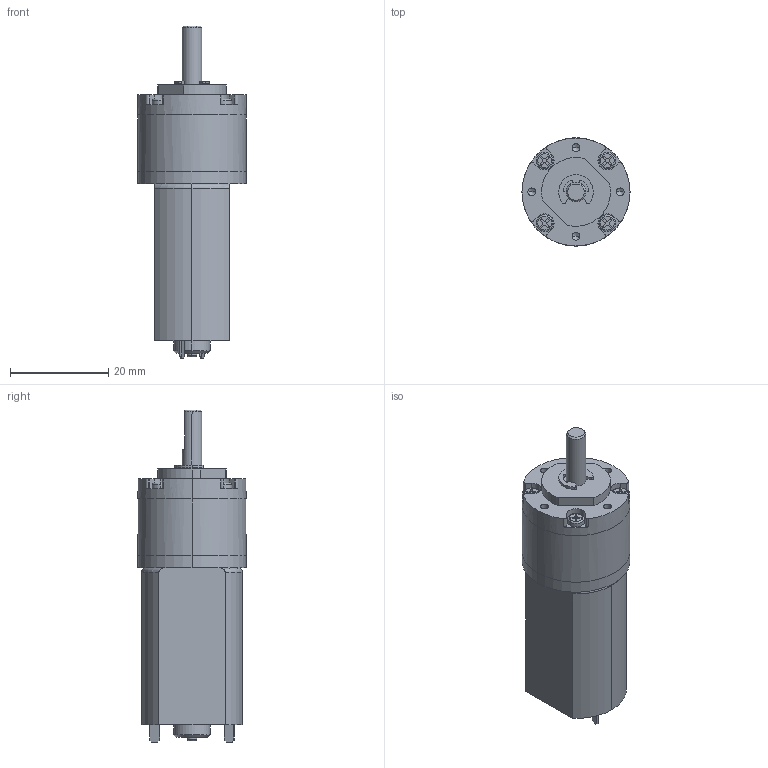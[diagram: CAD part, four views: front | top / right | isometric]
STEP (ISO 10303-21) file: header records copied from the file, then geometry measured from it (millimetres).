
FILE_DESCRIPTION((''),' ');
FILE_NAME('dsmp220_2.stp',' ',('R. Lindner'),('MSW GmbH'),' ','ACIS 14.0',' ');
FILE_SCHEMA(('automotive_design'));
Length unit declared in the file: inch
Products named in the file (4): DSMP220_2
Bounding box: 22 x 22 x 67.55 mm (x, y, z)
Volume: 18324.3 mm3; surface area: 7452 mm2
Topology: 4 solids, 4 shells, 357 faces, 955 edges, 610 vertices
Faces by surface type: cylinder 189, plane 125, cone 29, torus 14
Entity records: 14135 total; most frequent: DIRECTION 2080, CARTESIAN_POINT 1954, ORIENTED_EDGE 1862, EDGE_CURVE 931, AXIS2_PLACEMENT_3D 794, VERTEX_POINT 610, LINE 492, VECTOR 492
